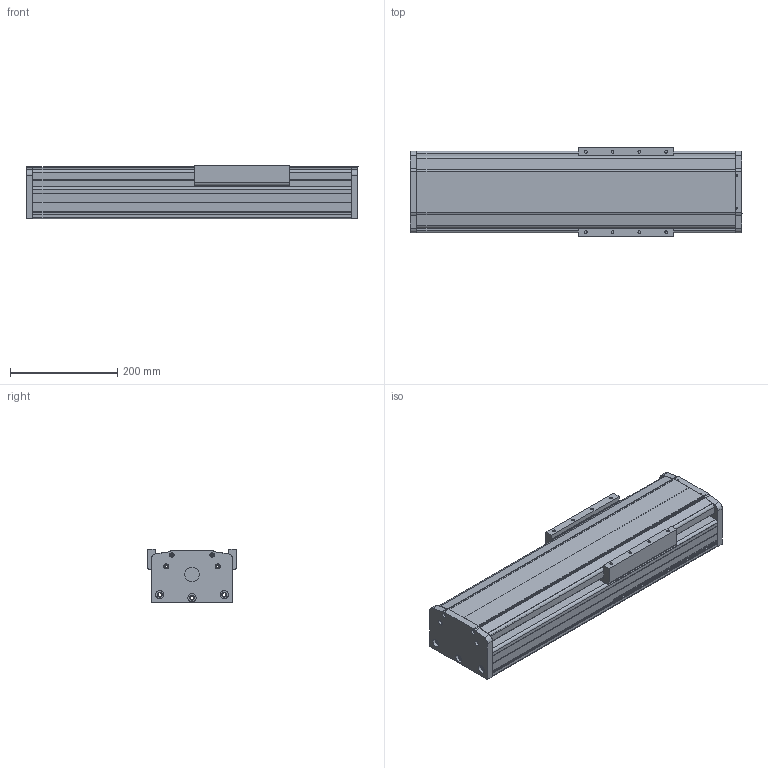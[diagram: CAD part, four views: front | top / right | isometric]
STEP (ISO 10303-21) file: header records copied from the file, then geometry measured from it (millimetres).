
FILE_DESCRIPTION(/* description */ (''),/* implementation_level */ '2;1');
FILE_NAME(/* name */ 'GF150-行程300.stp',/* time_stamp */ '2022-05-31T12:07:54+08:00',/* author */ (''),/* organization */ (''),/* preprocessor_version */ 'ST-DEVELOPER v16',/* originating_system */ 'SIEMENS PLM Software NX 10.0',/* authorisation */ '');
FILE_SCHEMA (('AP203_CONFIGURATION_CONTROLLED_3D_DESIGN_OF_MECHANICAL_PARTS_AND_ASSEMBLIES_MIM_LF { 1 0 10303 403 2 1 2}'));
Length unit declared in the file: millimetre
Products named in the file (1): Admi1B78CFABo92q
Bounding box: 618 x 166 x 100.3 mm (x, y, z)
Volume: 3461769 mm3; surface area: 1651092 mm2
Topology: 19 solids, 19 shells, 925 faces, 2416 edges, 1630 vertices
Faces by surface type: plane 540, cylinder 385
Full cylindrical faces by diameter (mm): 2.5 x2, 3.3 x2, 4.2 x4, 4.3 x52, 4.5 x2, 5.3 x18, 5.5 x24, 6.5 x6, 8.5 x2, 9 x22, 9.5 x30, 15 x5, 15.5 x6, 20 x3, 27 x1, 28 x1, 35 x5, 36 x1, 37 x1, 50.3 x1
Entity records: 27550 total; most frequent: DIRECTION 4784, CARTESIAN_POINT 4674, ORIENTED_EDGE 4326, EDGE_CURVE 2163, AXIS2_PLACEMENT_3D 1699, VERTEX_POINT 1565, EDGE_LOOP 1404, LINE 1386
